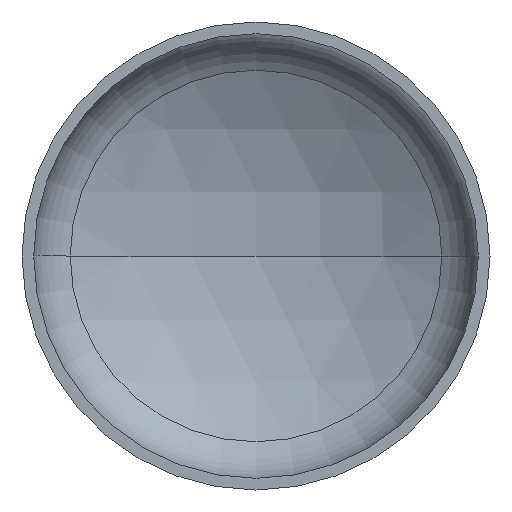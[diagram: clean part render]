
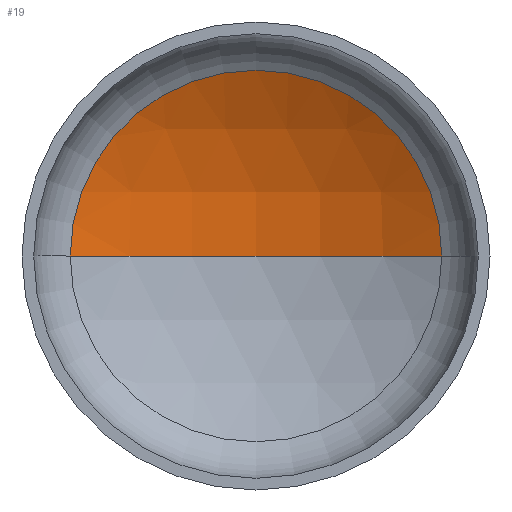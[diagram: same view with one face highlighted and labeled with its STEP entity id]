
A CAD part, front view. The second image highlights one B-rep face of the part: STEP entity #19.
In plain terms, the highlighted spherical face has radius 800 mm.
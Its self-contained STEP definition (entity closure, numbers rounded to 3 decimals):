
#10 = AXIS2_PLACEMENT_3D ( 'NONE', #151, #321, #174 ) ;
#18 = ORIENTED_EDGE ( 'NONE', *, *, #348, .T. ) ;
#19 = ADVANCED_FACE ( 'NONE', ( #133 ), #409, .F. ) ;
#23 = VERTEX_POINT ( 'NONE', #54 ) ;
#25 = AXIS2_PLACEMENT_3D ( 'NONE', #229, #381, #250 ) ;
#26 = AXIS2_PLACEMENT_3D ( 'NONE', #272, #68, #295 ) ;
#28 = ORIENTED_EDGE ( 'NONE', *, *, #355, .F. ) ;
#42 = VERTEX_POINT ( 'NONE', #328 ) ;
#54 = CARTESIAN_POINT ( 'NONE',  ( 396.899, 209.579, 0. ) ) ;
#68 = DIRECTION ( 'NONE',  ( 0., 0., -1. ) ) ;
#72 = VERTEX_POINT ( 'NONE', #267 ) ;
#90 = AXIS2_PLACEMENT_3D ( 'NONE', #309, #316, #140 ) ;
#102 = EDGE_LOOP ( 'NONE', ( #28, #18, #126 ) ) ;
#126 = ORIENTED_EDGE ( 'NONE', *, *, #373, .T. ) ;
#133 = FACE_OUTER_BOUND ( 'NONE', #102, .T. ) ;
#140 = DIRECTION ( 'NONE',  ( -1., 0., 0. ) ) ;
#151 = CARTESIAN_POINT ( 'NONE',  ( 0., 209.579, 0. ) ) ;
#174 = DIRECTION ( 'NONE',  ( 1., 0., 0. ) ) ;
#175 = CIRCLE ( 'NONE', #25, 800. ) ;
#229 = CARTESIAN_POINT ( 'NONE',  ( 0., -485.022, 0. ) ) ;
#239 = CIRCLE ( 'NONE', #10, 396.899 ) ;
#250 = DIRECTION ( 'NONE',  ( 1., 0., 0. ) ) ;
#267 = CARTESIAN_POINT ( 'NONE',  ( 0., 314.978, 0. ) ) ;
#272 = CARTESIAN_POINT ( 'NONE',  ( 0., -485.022, 0. ) ) ;
#295 = DIRECTION ( 'NONE',  ( -1., 0., 0. ) ) ;
#309 = CARTESIAN_POINT ( 'NONE',  ( 0., -485.022, 0. ) ) ;
#316 = DIRECTION ( 'NONE',  ( 0., 0., -1. ) ) ;
#320 = CIRCLE ( 'NONE', #26, 800. ) ;
#321 = DIRECTION ( 'NONE',  ( 0., -1., 0. ) ) ;
#328 = CARTESIAN_POINT ( 'NONE',  ( -396.899, 209.579, 0. ) ) ;
#348 = EDGE_CURVE ( 'NONE', #72, #23, #320, .T. ) ;
#355 = EDGE_CURVE ( 'NONE', #72, #42, #175, .T. ) ;
#373 = EDGE_CURVE ( 'NONE', #23, #42, #239, .T. ) ;
#381 = DIRECTION ( 'NONE',  ( 0., 0., 1. ) ) ;
#409 = SPHERICAL_SURFACE ( 'NONE', #90, 800. ) ;
